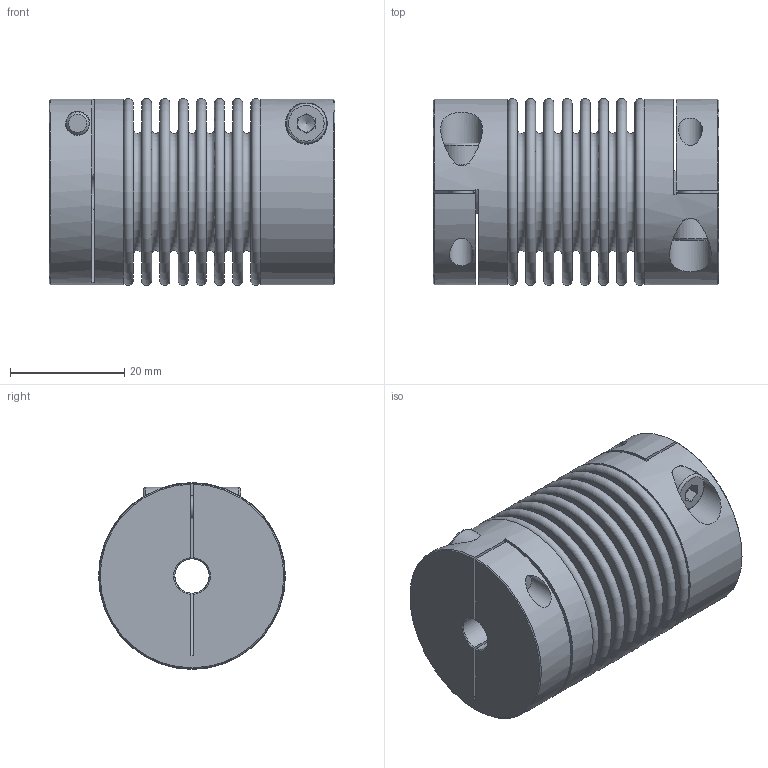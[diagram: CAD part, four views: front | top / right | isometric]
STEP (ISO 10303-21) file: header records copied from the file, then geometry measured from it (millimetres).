
FILE_DESCRIPTION(/* description */ ('STEP AP203'),/* implementation_level */ '2;1');
FILE_NAME(/* name */ 'KB2-45-50-6-6',/* time_stamp */ '2022-09-13T13:42:57+02:00',/* author */ ('License CC BY-ND 4.0'),/* organization */ ('CADENAS'),/* preprocessor_version */ 'ST-DEVELOPER v18.102',/* originating_system */ 'PARTsolutions',/* authorisation */ ' ');
FILE_SCHEMA (('CONFIG_CONTROL_DESIGN'));
Length unit declared in the file: millimetre
Products named in the file (1): KB2-45-50-6-6
Bounding box: 50 x 32.67 x 32.67 mm (x, y, z)
Volume: 22665 mm3; surface area: 25779.8 mm2
Topology: 1 solids, 1 shells, 144 faces, 305 edges, 199 vertices
Faces by surface type: plane 80, torus 34, cylinder 20, cone 10
Full cylindrical faces by diameter (mm): 4 x2, 4.2 x2, 6 x2, 7 x2, 21.876 x2, 32.5 x2
Entity records: 3580 total; most frequent: CARTESIAN_POINT 687, DIRECTION 628, ORIENTED_EDGE 468, AXIS2_PLACEMENT_3D 271, FACE_BOUND 236, EDGE_CURVE 234, EDGE_LOOP 234, VERTEX_POINT 182
